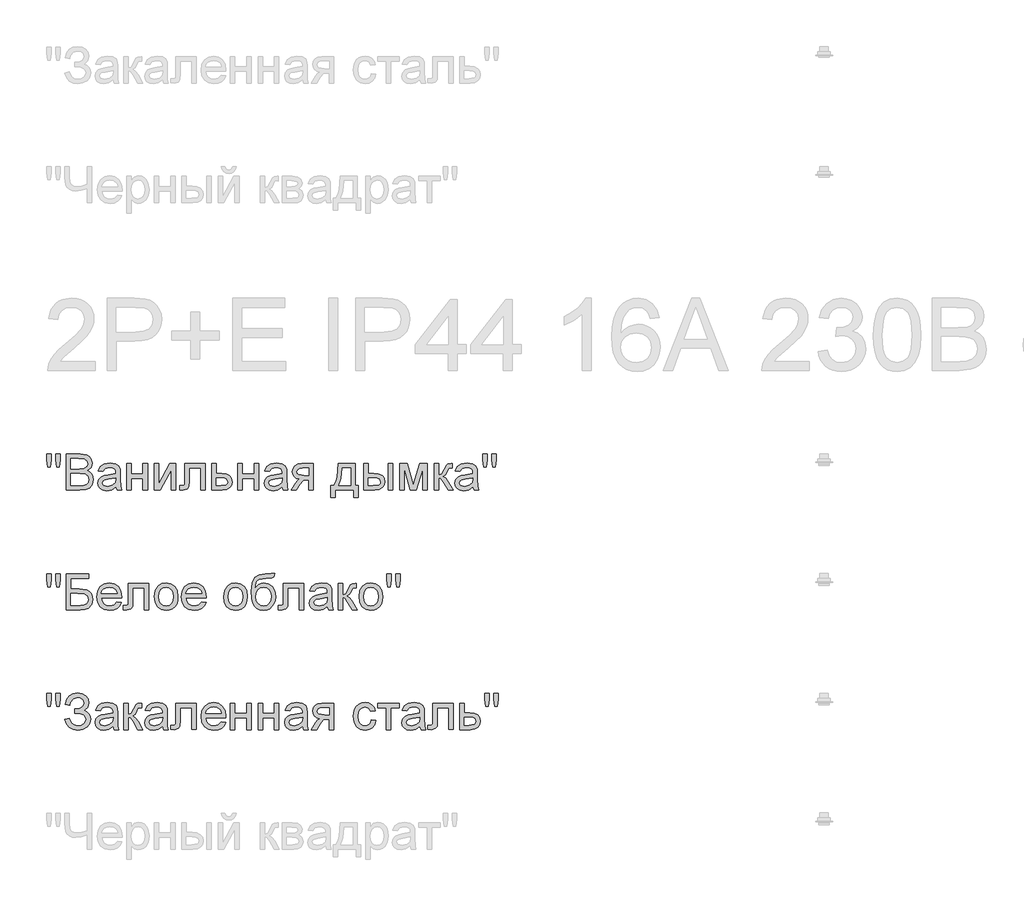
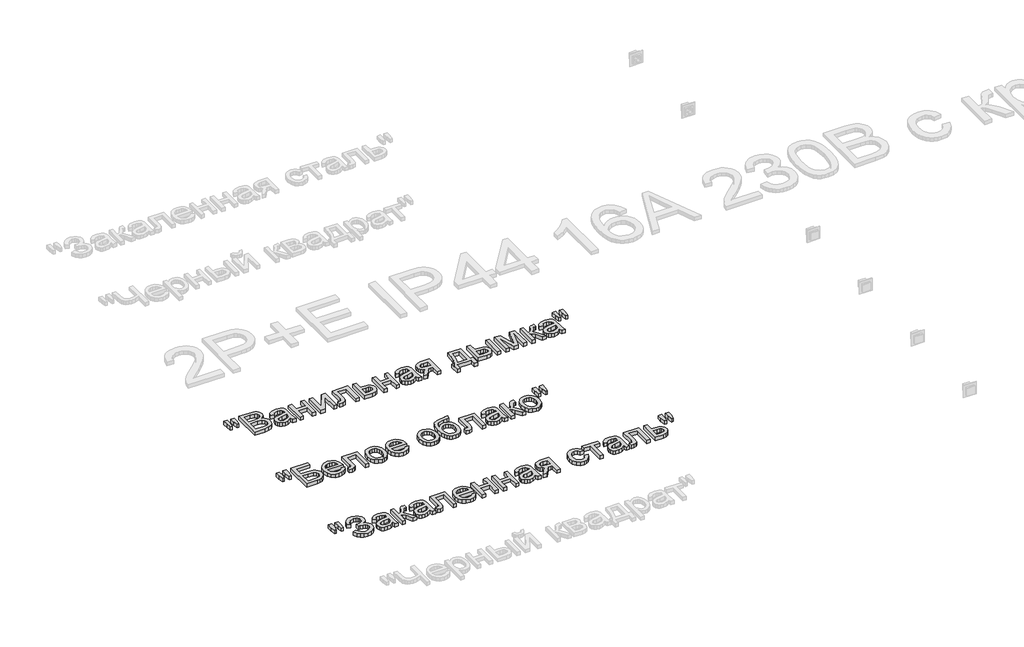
# One storey, part 151 of 168: 3 proxies.
"""IFC4 building model written with IfcOpenShell, lengths in millimetres."""

import ifcopenshell
import ifcopenshell.guid

model = None  # the IFC model being written
_history = None  # IfcOwnerHistory: only IFC2X3 demands one
_inside = {}  # id of a spatial element -> (the spatial element, [elements in it])
_under = {}  # id of a project, library or spatial element -> (it, [spatial elements below it])
_declared = {}  # id of a project -> (the project, [libraries it declares])
_typed = {}  # id of a type object -> (the type object, [elements of that type])
_made_of = {}  # id of a material, layer set ... -> (it, [elements and type objects made of it])


def new_model(schema):
    """Start an empty IFC model of exactly this schema.

    Asked for "IFC4X3", IfcOpenShell would pick the latest addendum, in which some entities
    have other attributes; the version numbers below select the first issue.
    IFC2X3 requires an IfcOwnerHistory on every rooted entity: one is made here for all.
    """
    global model, _history
    if schema == "IFC4X3":
        model = ifcopenshell.file(schema_version=(4, 3, 0, 0))
    else:
        model = ifcopenshell.file(schema=schema)
    _inside.clear()
    _under.clear()
    _declared.clear()
    _typed.clear()
    _made_of.clear()
    _history = None
    if model.schema == "IFC2X3":
        org = make("IfcOrganization", Name="unknown")
        user = make(
            "IfcPersonAndOrganization",
            ThePerson=make("IfcPerson", FamilyName="unknown"),
            TheOrganization=org,
        )
        app = make(
            "IfcApplication",
            ApplicationDeveloper=org,
            Version="unknown",
            ApplicationFullName="unknown",
            ApplicationIdentifier="unknown",
        )
        _history = make(
            "IfcOwnerHistory",
            OwningUser=user,
            OwningApplication=app,
            ChangeAction="ADDED",
            CreationDate=0,
        )
    return model


def make(cls, **values):
    """One entity of the class cls with the attributes given. An attribute that is None is left unset."""
    return model.create_entity(
        cls, **{name: value for name, value in values.items() if value is not None}
    )


def rooted(cls, **values):
    """An entity with a GlobalId (a new one), such as an element, a storey or a relation."""
    return make(cls, GlobalId=ifcopenshell.guid.new(), OwnerHistory=_history, **values)


def si_unit(unit_type, name, prefix=None):
    """IfcSIUnit, for example si_unit("LENGTHUNIT", "METRE", prefix="MILLI")."""
    return make("IfcSIUnit", UnitType=unit_type, Prefix=prefix, Name=name)


def assignment(units):
    """IfcUnitAssignment: the units of a project."""
    return None if units is None else make("IfcUnitAssignment", Units=units)


def point(xyz):
    """IfcCartesianPoint."""
    return None if xyz is None else make("IfcCartesianPoint", Coordinates=xyz)


def direction(xyz):
    """IfcDirection."""
    return None if xyz is None else make("IfcDirection", DirectionRatios=xyz)


def frame(location, z_axis=None, x_axis=None):
    """IfcAxis2Placement3D, a coordinate frame: its origin and axes. An axis left out is left unset."""
    return make(
        "IfcAxis2Placement3D",
        Location=point(location),
        Axis=direction(z_axis),
        RefDirection=direction(x_axis),
    )


def origin():
    """The frame at (0, 0, 0) with its axes left unset."""
    return frame((0.0, 0.0, 0.0))


def origin_with_axes():
    """The frame at (0, 0, 0) with the z axis (0, 0, 1) and the x axis (1, 0, 0) written out."""
    return frame((0.0, 0.0, 0.0), z_axis=(0.0, 0.0, 1.0), x_axis=(1.0, 0.0, 0.0))


def place(relative_to, where):
    """IfcLocalPlacement: puts the frame where relative to a parent placement (None: the world)."""
    return make(
        "IfcLocalPlacement", PlacementRelTo=relative_to, RelativePlacement=where
    )


def context(
    kind, dimensions, precision=None, world=None, true_north=None, identifier=None
):
    """IfcGeometricRepresentationContext, for example the 3D "Model" context."""
    return make(
        "IfcGeometricRepresentationContext",
        ContextIdentifier=identifier,
        ContextType=kind,
        CoordinateSpaceDimension=dimensions,
        Precision=precision,
        WorldCoordinateSystem=world,
        TrueNorth=true_north,
    )


def project(units=None, contexts=None):
    """IfcProject with its units and contexts."""
    return rooted(
        "IfcProject",
        Name="project",
        RepresentationContexts=contexts,
        UnitsInContext=assignment(units),
    )


def spatial(cls, under=None, at=None, **own):
    """A site, building, storey or space (cls), placed at a placement, below another one or the project."""
    s = rooted(cls, ObjectPlacement=at, **own)
    if under is not None:
        _under.setdefault(under.id(), (under, []))[1].append(s)
    return s


def polyline(points):
    """IfcPolyline through the points."""
    return make("IfcPolyline", Points=[point(p) for p in points])


def outline(outer, holes=None, kind="AREA"):
    """IfcArbitraryClosedProfileDef: a profile drawn as a closed curve; with holes, ...WithVoids."""
    if holes is None:
        return make("IfcArbitraryClosedProfileDef", ProfileType=kind, OuterCurve=outer)
    return make(
        "IfcArbitraryProfileDefWithVoids",
        ProfileType=kind,
        OuterCurve=outer,
        InnerCurves=holes,
    )


def extrude(swept, where, along, depth):
    """IfcExtrudedAreaSolid: the profile swept, set in the frame where, extruded along a direction by depth."""
    return make(
        "IfcExtrudedAreaSolid",
        SweptArea=swept,
        Position=where,
        ExtrudedDirection=direction(along),
        Depth=depth,
    )


def shape(context_of_items, identifier, shape_type, items):
    """IfcShapeRepresentation: the items that make up one representation, for example the "Body"."""
    return make(
        "IfcShapeRepresentation",
        ContextOfItems=context_of_items,
        RepresentationIdentifier=identifier,
        RepresentationType=shape_type,
        Items=items,
    )


def made_of(thing, what):
    """Note that an element or type object is made of a material, layer set ...; save() writes the relation."""
    if what is not None:
        _made_of.setdefault(what.id(), (what, []))[1].append(thing)
    return thing


def element(
    cls,
    number,
    at=None,
    inside=None,
    cuts=None,
    type_object=None,
    material=None,
    context=None,
    identifier="Body",
    shape_type=None,
    held_by="IfcProductDefinitionShape",
    body=None,
    shapes=None,
    **own,
):
    """One element of the class cls, such as IfcWall. Its Tag is "e" and its number.

    at: its placement. inside: the storey or other place that contains it. cuts: it is an
    opening in that element (IfcRelVoidsElement). A single representation is given by context,
    identifier, shape_type and body (its items); several are given by shapes. held_by: the class
    of the entity that holds the representations. save() writes the other relations.
    """
    e = rooted(cls, Tag="e%d" % number, ObjectPlacement=at, **own)
    if body is not None:
        shapes = [shape(context, identifier, shape_type, body)]
    if shapes is not None:
        e.Representation = make(held_by, Representations=shapes)
    if inside is not None:
        _inside.setdefault(inside.id(), (inside, []))[1].append(e)
    if cuts is not None:
        rooted(
            "IfcRelVoidsElement", RelatingBuildingElement=cuts, RelatedOpeningElement=e
        )
    if type_object is not None:
        _typed.setdefault(type_object.id(), (type_object, []))[1].append(e)
    return made_of(e, material)


def aggregate(whole, parts):
    """IfcRelAggregates: a whole, such as a stair, and the parts it consists of."""
    return rooted("IfcRelAggregates", RelatingObject=whole, RelatedObjects=parts)


def save(model, path):
    """Write the relations noted so far, then the file.

    IfcRelAggregates (storeys below a building ...), IfcRelContainedInSpatialStructure (elements
    in a storey), IfcRelDefinesByType, IfcRelAssociatesMaterial and IfcRelDeclares: one each for
    every whole, place, type object, material and project.
    """
    for whole, parts in _under.values():
        aggregate(whole, parts)
    for where, things in _inside.values():
        rooted(
            "IfcRelContainedInSpatialStructure",
            RelatedElements=things,
            RelatingStructure=where,
        )
    for kind, things in _typed.values():
        rooted("IfcRelDefinesByType", RelatedObjects=things, RelatingType=kind)
    for what, things in _made_of.values():
        rooted("IfcRelAssociatesMaterial", RelatedObjects=things, RelatingMaterial=what)
    for by, libraries in _declared.values():
        rooted("IfcRelDeclares", RelatingContext=by, RelatedDefinitions=libraries)
    model.write(path)


model = new_model("IFC4")

# Units and contexts
model_context = context("Model", 3, world=origin())
ifc_project = project(units=[si_unit("LENGTHUNIT", "METRE", prefix="MILLI")], contexts=[model_context])

# Site, building, storey
site = spatial("IfcSite", under=ifc_project)
building = spatial("IfcBuilding", under=site)
storey = spatial("IfcBuildingStorey", under=building, Name="Этаж 01", Elevation=0.0)

# Proxies
placement = place(None, origin())
element("IfcBuildingElementProxy", 1, Name="150", ObjectType="150", at=placement, inside=storey, context=model_context, shape_type="SweptSolid", body=[
    extrude(outline(polyline([(63580.1485789, -9651.873446), (63575.550054, -9622.7739802), (63575.550054, -9597.7212163), (63594.3856121, -9597.7212163), (63594.3856121, -9622.7739802), (63590.2653338, -9651.873446), (63580.1485789, -9651.873446)])), origin_with_axes(), (0.0, 0.0, 1.0), 20.0),
    extrude(outline(polyline([(63617.7093306, -9651.873446), (63613.2211703, -9622.7739802), (63613.2211703, -9597.7212163), (63632.0567284, -9597.7212163), (63632.0567284, -9622.7739802), (63627.6421445, -9651.873446), (63617.7093306, -9651.873446)])), origin_with_axes(), (0.0, 0.0, 1.0), 20.0),
    extrude(outline(polyline([(63657.9556209, -9748.4056816), (63657.9556209, -9597.7212163), (63715.4555767, -9597.7212163), (63743.6169435, -9602.1541944), (63753.0807078, -9607.7781904), (63760.2452096, -9615.7842223), (63766.2600803, -9635.0612389), (63761.2017028, -9652.6643923), (63745.9162059, -9666.0001146), (63756.5893823, -9671.5735269), (63764.4758526, -9680.0532069), (63769.3456905, -9690.8781346), (63770.9689698, -9703.48729), (63766.5359918, -9723.7391938), (63755.5547142, -9738.160168), (63739.1655713, -9745.8121135), (63715.0141183, -9748.4056816), (63657.9556209, -9748.4056816)]), holes=[polyline([(63676.791179, -9658.9367803), (63711.1881456, -9658.9367803), (63731.2745025, -9657.3180996), (63743.3594261, -9650.3467358), (63747.4245221, -9638.0778712), (63743.6353376, -9625.7906126), (63732.7828187, -9618.5249432), (63708.5761834, -9616.5567745), (63676.791179, -9616.5567745), (63676.791179, -9658.9367803)]), polyline([(63676.791179, -9729.5701234), (63715.4187885, -9729.5701234), (63729.3983043, -9728.8343594), (63741.2257105, -9724.7324752), (63749.061597, -9716.3631598), (63752.1334117, -9703.671231), (63748.5281681, -9689.0295275), (63736.8479148, -9680.2923302), (63713.5793786, -9677.7723385), (63676.791179, -9677.7723385), (63676.791179, -9729.5701234)])]), origin_with_axes(), (0.0, 0.0, 1.0), 20.0),
    extrude(outline(polyline([(63865.1467606, -9734.279013), (63846.8814195, -9747.0445182), (63826.7030921, -9750.7601263), (63810.9623412, -9748.5252432), (63799.3510657, -9741.8205939), (63792.1911624, -9731.6394596), (63789.804528, -9718.975122), (63793.4097715, -9704.0759012), (63802.8827329, -9693.2601705), (63816.0713024, -9687.079753), (63832.3684748, -9684.2470616), (63865.036396, -9677.7723385), (63865.1467606, -9673.5784838), (63863.8499765, -9665.1723802), (63859.9596244, -9659.6725443), (63851.2592153, -9655.5890542), (63839.1375035, -9654.2278908), (63820.0812162, -9657.8515285), (63810.9945309, -9670.7090042), (63792.1589727, -9668.3545594), (63800.3075589, -9649.9604597), (63816.7150959, -9639.1815172), (63841.5655247, -9635.3923327), (63864.3926025, -9638.7400588), (63877.2868664, -9647.1461624), (63883.0626137, -9659.9300617), (63883.9823187, -9676.4111751), (63883.9823187, -9699.8452582), (63884.9388119, -9732.5683617), (63888.6912083, -9748.4056816), (63869.8556501, -9748.4056816), (63865.1467606, -9734.279013)]), holes=[polyline([(63865.1467606, -9696.6078966), (63834.7597078, -9702.383644), (63818.5545059, -9705.4370645), (63811.2152601, -9710.4034715), (63808.6400861, -9717.6507468), (63814.2502865, -9727.841078), (63830.7130058, -9731.9245682), (63849.7692932, -9727.4180137), (63862.0565518, -9716.5103126), (63865.036396, -9701.9421856), (63865.1467606, -9696.6078966)])]), origin_with_axes(), (0.0, 0.0, 1.0), 20.0),
    extrude(outline(polyline([(63909.8812112, -9637.7467774), (63928.7167693, -9637.7467774), (63928.7167693, -9680.1267833), (63978.1601095, -9680.1267833), (63978.1601095, -9637.7467774), (63996.9956676, -9637.7467774), (63996.9956676, -9748.4056816), (63978.1601095, -9748.4056816), (63978.1601095, -9698.9623414), (63928.7167693, -9698.9623414), (63928.7167693, -9748.4056816), (63909.8812112, -9748.4056816), (63909.8812112, -9637.7467774)])), origin_with_axes(), (0.0, 0.0, 1.0), 20.0),
    extrude(outline(polyline([(64025.2490049, -9637.7467774), (64044.084563, -9637.7467774), (64044.084563, -9722.1389071), (64090.364118, -9637.7467774), (64114.7179061, -9637.7467774), (64114.7179061, -9748.4056816), (64095.8823479, -9748.4056816), (64095.8823479, -9664.5285867), (64049.8970985, -9748.4056816), (64025.2490049, -9748.4056816), (64025.2490049, -9637.7467774)])), origin_with_axes(), (0.0, 0.0, 1.0), 20.0),
    extrude(outline(polyline([(64152.3890224, -9637.7467774), (64237.1490341, -9637.7467774), (64237.1490341, -9748.295317), (64218.3134759, -9748.295317), (64218.3134759, -9656.5823356), (64171.2245806, -9656.5823356), (64171.2245806, -9709.3734019), (64169.9553877, -9733.72719), (64162.9840239, -9744.0094917), (64146.5029105, -9748.4056816), (64131.1990195, -9747.4491884), (64131.1990195, -9729.5701234), (64139.6235172, -9729.5701234), (64148.1399854, -9728.4112951), (64151.5428938, -9724.7324752), (64152.3890224, -9708.3065441), (64152.3890224, -9637.7467774)])), origin_with_axes(), (0.0, 0.0, 1.0), 20.0),
    extrude(outline(polyline([(64265.4023713, -9637.7467774), (64284.2379295, -9637.7467774), (64284.2379295, -9677.7723385), (64305.9429672, -9677.7723385), (64324.7601312, -9680.1313818), (64338.6844648, -9687.2085117), (64347.2929034, -9698.433511), (64350.162383, -9713.2361628), (64347.7205663, -9726.7144394), (64340.395116, -9738.0865916), (64327.6985887, -9745.8259091), (64309.1435405, -9748.4056816), (64265.4023713, -9748.4056816), (64265.4023713, -9637.7467774)]), holes=[polyline([(64284.2379295, -9729.5701234), (64301.8226888, -9729.5701234), (64324.539402, -9725.615392), (64329.6299692, -9720.552416), (64331.3268249, -9713.272951), (64326.3052356, -9701.6846682), (64318.2348244, -9697.8770895), (64304.066769, -9696.6078966), (64284.2379295, -9696.6078966), (64284.2379295, -9729.5701234)])]), origin_with_axes(), (0.0, 0.0, 1.0), 20.0),
    extrude(outline(polyline([(64373.7068307, -9637.7467774), (64392.5423889, -9637.7467774), (64392.5423889, -9680.1267833), (64441.985729, -9680.1267833), (64441.985729, -9637.7467774), (64460.8212872, -9637.7467774), (64460.8212872, -9748.4056816), (64441.985729, -9748.4056816), (64441.985729, -9698.9623414), (64392.5423889, -9698.9623414), (64392.5423889, -9748.4056816), (64373.7068307, -9748.4056816), (64373.7068307, -9637.7467774)])), origin_with_axes(), (0.0, 0.0, 1.0), 20.0),
    extrude(outline(polyline([(64559.7079675, -9734.279013), (64541.4426264, -9747.0445182), (64521.264299, -9750.7601263), (64505.5235481, -9748.5252432), (64493.9122726, -9741.8205939), (64486.7523693, -9731.6394596), (64484.3657349, -9718.975122), (64487.9709784, -9704.0759012), (64497.4439398, -9693.2601705), (64510.6325093, -9687.079753), (64526.9296817, -9684.2470616), (64559.5976029, -9677.7723385), (64559.7079675, -9673.5784838), (64558.4111834, -9665.1723802), (64554.5208313, -9659.6725443), (64545.8204221, -9655.5890542), (64533.6987104, -9654.2278908), (64514.6424231, -9657.8515285), (64505.5557378, -9670.7090042), (64486.7201796, -9668.3545594), (64494.8687658, -9649.9604597), (64511.2763028, -9639.1815172), (64536.1267316, -9635.3923327), (64558.9538094, -9638.7400588), (64571.8480733, -9647.1461624), (64577.6238206, -9659.9300617), (64578.5435256, -9676.4111751), (64578.5435256, -9699.8452582), (64579.5000188, -9732.5683617), (64583.2524152, -9748.4056816), (64564.416857, -9748.4056816), (64559.7079675, -9734.279013)]), holes=[polyline([(64559.7079675, -9696.6078966), (64529.3209147, -9702.383644), (64513.1157128, -9705.4370645), (64505.776467, -9710.4034715), (64503.201293, -9717.6507468), (64508.8114934, -9727.841078), (64525.2742127, -9731.9245682), (64544.3305001, -9727.4180137), (64556.6177587, -9716.5103126), (64559.5976029, -9701.9421856), (64559.7079675, -9696.6078966)])]), origin_with_axes(), (0.0, 0.0, 1.0), 20.0),
    extrude(outline(polyline([(64689.2024298, -9637.7467774), (64689.2024298, -9748.4056816), (64670.3668716, -9748.4056816), (64670.3668716, -9706.0256757), (64660.1029639, -9706.0256757), (64646.1234481, -9708.4169087), (64632.9900609, -9724.4933519), (64617.9804755, -9748.4056816), (64596.2018614, -9748.4056816), (64615.1109959, -9718.1657816), (64623.4619172, -9707.3132627), (64631.1506509, -9702.4940086), (64618.2747811, -9698.5484742), (64609.224884, -9691.0528785), (64603.872201, -9681.0832765), (64602.0879733, -9669.7157228), (64604.5251915, -9656.8214589), (64611.8368462, -9646.6127335), (64623.7654199, -9639.9632664), (64640.0533952, -9637.7467774), (64689.2024298, -9637.7467774)]), holes=[polyline([(64670.3668716, -9656.5823356), (64645.5348369, -9656.5823356), (64632.7095509, -9657.672186), (64625.4300859, -9660.9417372), (64620.9235315, -9671.1504626), (64622.583599, -9678.32876), (64627.5638015, -9683.3089625), (64651.0898551, -9687.1901176), (64670.3668716, -9687.1901176), (64670.3668716, -9656.5823356)])]), origin_with_axes(), (0.0, 0.0, 1.0), 20.0),
    extrude(outline(polyline([(64792.7979996, -9637.7467774), (64863.4313427, -9637.7467774), (64863.4313427, -9729.5701234), (64877.5580113, -9729.5701234), (64877.5580113, -9779.0134636), (64858.7224531, -9779.0134636), (64858.7224531, -9748.4056816), (64781.0257758, -9748.4056816), (64781.0257758, -9779.0134636), (64762.1902176, -9779.0134636), (64762.1902176, -9729.5701234), (64773.9624415, -9729.5701234), (64782.5202964, -9714.105284), (64788.5121744, -9693.6464466), (64792.7979996, -9637.7467774)]), holes=[polyline([(64809.279113, -9656.5823356), (64804.864529, -9699.4957703), (64795.1524444, -9729.5701234), (64844.5957845, -9729.5701234), (64844.5957845, -9656.5823356), (64809.279113, -9656.5823356)])]), origin_with_axes(), (0.0, 0.0, 1.0), 20.0),
    extrude(outline(polyline([(65002.3435841, -9637.7467774), (65021.1791422, -9637.7467774), (65021.1791422, -9748.4056816), (65002.3435841, -9748.4056816), (65002.3435841, -9637.7467774)])), origin_with_axes(), (0.0, 0.0, 1.0), 20.0),
    extrude(outline(polyline([(64898.7480142, -9637.7467774), (64917.5835724, -9637.7467774), (64917.5835724, -9677.7723385), (64940.8705027, -9677.7723385), (64960.9982463, -9680.1313818), (64975.9112627, -9687.2085117), (64985.1405023, -9698.433511), (64988.2169154, -9713.2361628), (64985.637143, -9726.7144394), (64977.8978255, -9738.0865916), (64964.4931253, -9745.8259091), (64944.9172046, -9748.4056816), (64898.7480142, -9748.4056816), (64898.7480142, -9637.7467774)]), holes=[polyline([(64917.5835724, -9729.5701234), (64936.9341653, -9729.5701234), (64961.9133528, -9725.615392), (64967.5143562, -9720.552416), (64969.3813573, -9713.272951), (64963.8447333, -9701.6846682), (64954.9649816, -9697.8770895), (64939.3989747, -9696.6078966), (64917.5835724, -9696.6078966), (64917.5835724, -9729.5701234)])]), origin_with_axes(), (0.0, 0.0, 1.0), 20.0),
    extrude(outline(polyline([(65049.4324794, -9637.7467774), (65081.8428832, -9637.7467774), (65106.8220707, -9726.3327619), (65133.7510327, -9637.7467774), (65164.8002731, -9637.7467774), (65164.8002731, -9748.4056816), (65145.964715, -9748.4056816), (65145.964715, -9659.3046623), (65118.8886001, -9748.4056816), (65094.1669301, -9748.4056816), (65068.2680376, -9655.0372312), (65068.2680376, -9748.4056816), (65049.4324794, -9748.4056816), (65049.4324794, -9637.7467774)])), origin_with_axes(), (0.0, 0.0, 1.0), 20.0),
    extrude(outline(polyline([(65193.0536104, -9637.7467774), (65211.8891685, -9637.7467774), (65211.8891685, -9684.8356728), (65224.5075209, -9681.4511584), (65234.845005, -9661.7326835), (65243.4350496, -9644.7181412), (65251.0134187, -9639.1815172), (65264.7905994, -9637.7467774), (65268.395843, -9637.7467774), (65268.395843, -9656.6927002), (65263.3190714, -9656.5823356), (65254.1220216, -9658.5688983), (65247.6472984, -9670.9665216), (65240.0505352, -9684.3758203), (65229.4003515, -9690.9425139), (65241.2829399, -9698.2725627), (65252.9447992, -9713.7144094), (65273.1047325, -9748.4056816), (65251.6940004, -9748.4056816), (65231.9387373, -9714.4501734), (65222.0059234, -9700.0843815), (65211.8891685, -9696.6078966), (65211.8891685, -9748.4056816), (65193.0536104, -9748.4056816), (65193.0536104, -9637.7467774)])), origin_with_axes(), (0.0, 0.0, 1.0), 20.0),
    extrude(outline(polyline([(65355.5102994, -9734.279013), (65337.2449584, -9747.0445182), (65317.0666309, -9750.7601263), (65301.3258801, -9748.5252432), (65289.7146046, -9741.8205939), (65282.5547013, -9731.6394596), (65280.1680668, -9718.975122), (65283.7733104, -9704.0759012), (65293.2462717, -9693.2601705), (65306.4348413, -9687.079753), (65322.7320137, -9684.2470616), (65355.3999348, -9677.7723385), (65355.5102994, -9673.5784838), (65354.2135154, -9665.1723802), (65350.3231633, -9659.6725443), (65341.6227541, -9655.5890542), (65329.5010424, -9654.2278908), (65310.444755, -9657.8515285), (65301.3580697, -9670.7090042), (65282.5225116, -9668.3545594), (65290.6710978, -9649.9604597), (65307.0786348, -9639.1815172), (65331.9290635, -9635.3923327), (65354.7561413, -9638.7400588), (65367.6504053, -9647.1461624), (65373.4261526, -9659.9300617), (65374.3458576, -9676.4111751), (65374.3458576, -9699.8452582), (65375.3023508, -9732.5683617), (65379.0547471, -9748.4056816), (65360.219189, -9748.4056816), (65355.5102994, -9734.279013)]), holes=[polyline([(65355.5102994, -9696.6078966), (65325.1232466, -9702.383644), (65308.9180447, -9705.4370645), (65301.5787989, -9710.4034715), (65299.003625, -9717.6507468), (65304.6138254, -9727.841078), (65321.0765447, -9731.9245682), (65340.132832, -9727.4180137), (65352.4200907, -9716.5103126), (65355.3999348, -9701.9421856), (65355.5102994, -9696.6078966)])]), origin_with_axes(), (0.0, 0.0, 1.0), 20.0),
    extrude(outline(polyline([(65400.1343854, -9651.873446), (65395.5358605, -9622.7739802), (65395.5358605, -9597.7212163), (65414.3714187, -9597.7212163), (65414.3714187, -9622.7739802), (65410.2511403, -9651.873446), (65400.1343854, -9651.873446)])), origin_with_axes(), (0.0, 0.0, 1.0), 20.0),
    extrude(outline(polyline([(65437.6951372, -9651.873446), (65433.2069768, -9622.7739802), (65433.2069768, -9597.7212163), (65452.042535, -9597.7212163), (65452.042535, -9622.7739802), (65447.627951, -9651.873446), (65437.6951372, -9651.873446)])), origin_with_axes(), (0.0, 0.0, 1.0), 20.0),
])
element("IfcBuildingElementProxy", 2, Name="150", ObjectType="150", at=placement, inside=storey, context=model_context, shape_type="SweptSolid", body=[
    extrude(outline(polyline([(63580.1485789, -10151.873446), (63575.550054, -10122.7739802), (63575.550054, -10097.7212163), (63594.3856121, -10097.7212163), (63594.3856121, -10122.7739802), (63590.2653338, -10151.873446), (63580.1485789, -10151.873446)])), origin_with_axes(), (0.0, 0.0, 1.0), 20.0),
    extrude(outline(polyline([(63617.7093306, -10151.873446), (63613.2211703, -10122.7739802), (63613.2211703, -10097.7212163), (63632.0567284, -10097.7212163), (63632.0567284, -10122.7739802), (63627.6421445, -10151.873446), (63617.7093306, -10151.873446)])), origin_with_axes(), (0.0, 0.0, 1.0), 20.0),
    extrude(outline(polyline([(63657.9556209, -10097.7212163), (63752.1334117, -10097.7212163), (63752.1334117, -10116.5567745), (63676.791179, -10116.5567745), (63676.791179, -10161.2912251), (63712.0710624, -10161.2912251), (63743.157091, -10165.1171979), (63753.5589544, -10170.6446248), (63761.6615553, -10179.5749603), (63766.8762826, -10191.0712726), (63768.614525, -10204.2966303), (63763.6665122, -10225.7625448), (63748.8960501, -10242.0781113), (63735.6247071, -10246.823789), (63715.4555767, -10248.4056816), (63657.9556209, -10248.4056816), (63657.9556209, -10097.7212163)]), holes=[polyline([(63676.791179, -10229.5701234), (63717.1478339, -10229.5701234), (63731.4124583, -10228.015822), (63741.6119866, -10223.3529177), (63747.7372218, -10215.5814105), (63749.7789669, -10204.7013005), (63745.1068655, -10189.9492325), (63732.102237, -10182.0765578), (63703.7201411, -10180.1267833), (63676.791179, -10180.1267833), (63676.791179, -10229.5701234)])]), origin_with_axes(), (0.0, 0.0, 1.0), 20.0),
    extrude(outline(polyline([(63869.6349209, -10215.4434548), (63888.1025971, -10217.7978996), (63881.4485315, -10231.713036), (63870.8305374, -10242.1148995), (63856.4877381, -10248.5988196), (63838.6592569, -10250.7601263), (63816.5587461, -10247.0307226), (63799.5534008, -10235.8425114), (63788.710079, -10217.9220597), (63785.0956384, -10193.9959345), (63788.7468672, -10169.2650674), (63799.7005536, -10150.7698), (63816.4759726, -10139.2366995), (63837.5923991, -10135.3923327), (63858.0512366, -10139.2275025), (63874.3989927, -10150.7330118), (63885.1181544, -10169.191491), (63888.6912083, -10193.8855699), (63888.5808437, -10198.9623414), (63803.9311966, -10198.9623414), (63807.1915508, -10213.0614189), (63814.7653213, -10223.4264941), (63825.6960151, -10229.8000497), (63839.0271389, -10231.9245682), (63857.4948151, -10227.9882308), (63869.6349209, -10215.4434548)]), holes=[polyline([(63803.9311966, -10180.1267833), (63869.8556501, -10180.1267833), (63867.3080673, -10170.1755753), (63862.3140692, -10163.0570587), (63851.3327917, -10156.4351828), (63837.5188227, -10154.2278908), (63824.8222954, -10155.9891259), (63814.3238629, -10161.272831), (63807.0260039, -10169.5087892), (63803.9311966, -10180.1267833)])]), origin_with_axes(), (0.0, 0.0, 1.0), 20.0),
    extrude(outline(polyline([(63916.9445455, -10137.7467774), (64001.7045572, -10137.7467774), (64001.7045572, -10248.295317), (63982.868999, -10248.295317), (63982.868999, -10156.5823356), (63935.7801036, -10156.5823356), (63935.7801036, -10209.3734019), (63934.5109108, -10233.72719), (63927.539547, -10244.0094917), (63911.0584336, -10248.4056816), (63895.7545426, -10247.4491884), (63895.7545426, -10229.5701234), (63904.1790403, -10229.5701234), (63912.6955084, -10228.4112951), (63916.0984169, -10224.7324752), (63916.9445455, -10208.3065441), (63916.9445455, -10137.7467774)])), origin_with_axes(), (0.0, 0.0, 1.0), 20.0),
    extrude(outline(polyline([(64025.2490049, -10193.0762295), (64029.323298, -10166.3955878), (64041.5461773, -10147.6428031), (64056.6477332, -10138.4549503), (64074.7291332, -10135.3923327), (64094.516586, -10139.1217364), (64110.3217163, -10150.3099476), (64120.6821929, -10168.0740494), (64124.1356852, -10191.5311251), (64122.6089749, -10210.5598213), (64118.0288441, -10225.0451749), (64110.5286499, -10235.8930952), (64100.2417496, -10244.0094917), (64088.0234688, -10249.0724677), (64074.7291332, -10250.7601263), (64054.7025571, -10247.0445182), (64038.915821, -10235.8976937), (64028.6657089, -10217.7611114), (64025.2490049, -10193.0762295)]), holes=[polyline([(64044.084563, -10193.0394413), (64046.2642638, -10210.0861732), (64052.8033663, -10222.2308776), (64062.6442097, -10229.5011455), (64074.7291332, -10231.9245682), (64086.7588745, -10229.48735), (64096.5813237, -10222.1756953), (64103.1204262, -10209.8700426), (64105.300127, -10192.4508301), (64103.1066306, -10175.9007388), (64096.5261414, -10163.9215814), (64086.6898966, -10156.6513134), (64074.7291332, -10154.2278908), (64062.6442097, -10156.6421164), (64052.8033663, -10163.8847932), (64046.2642638, -10176.0019064), (64044.084563, -10193.0394413)])]), origin_with_axes(), (0.0, 0.0, 1.0), 20.0),
    extrude(outline(polyline([(64222.8016363, -10215.4434548), (64241.2693124, -10217.7978996), (64234.6152469, -10231.713036), (64223.9972528, -10242.1148995), (64209.6544535, -10248.5988196), (64191.8259723, -10250.7601263), (64169.7254614, -10247.0307226), (64152.7201162, -10235.8425114), (64141.8767944, -10217.9220597), (64138.2623538, -10193.9959345), (64141.9135826, -10169.2650674), (64152.867269, -10150.7698), (64169.642688, -10139.2366995), (64190.7591145, -10135.3923327), (64211.217952, -10139.2275025), (64227.5657081, -10150.7330118), (64238.2848698, -10169.191491), (64241.8579236, -10193.8855699), (64241.747559, -10198.9623414), (64157.0979119, -10198.9623414), (64160.3582661, -10213.0614189), (64167.9320367, -10223.4264941), (64178.8627305, -10229.8000497), (64192.1938543, -10231.9245682), (64210.6615304, -10227.9882308), (64222.8016363, -10215.4434548)]), holes=[polyline([(64157.0979119, -10180.1267833), (64223.0223655, -10180.1267833), (64220.4747827, -10170.1755753), (64215.4807846, -10163.0570587), (64204.499507, -10156.4351828), (64190.6855381, -10154.2278908), (64177.9890107, -10155.9891259), (64167.4905783, -10161.272831), (64160.1927192, -10169.5087892), (64157.0979119, -10180.1267833)])]), origin_with_axes(), (0.0, 0.0, 1.0), 20.0),
    extrude(outline(polyline([(64314.8457115, -10193.0762295), (64318.9200046, -10166.3955878), (64331.1428839, -10147.6428031), (64346.2444398, -10138.4549503), (64364.3258398, -10135.3923327), (64384.1132926, -10139.1217364), (64399.9184229, -10150.3099476), (64410.2788995, -10168.0740494), (64413.7323918, -10191.5311251), (64412.2056815, -10210.5598213), (64407.6255507, -10225.0451749), (64400.1253565, -10235.8930952), (64389.8384562, -10244.0094917), (64377.6201754, -10249.0724677), (64364.3258398, -10250.7601263), (64344.2992637, -10247.0445182), (64328.5125276, -10235.8976937), (64318.2624155, -10217.7611114), (64314.8457115, -10193.0762295)]), holes=[polyline([(64333.6812696, -10193.0394413), (64335.8609704, -10210.0861732), (64342.4000729, -10222.2308776), (64352.2409163, -10229.5011455), (64364.3258398, -10231.9245682), (64376.3555811, -10229.48735), (64386.1780303, -10222.1756953), (64392.7171328, -10209.8700426), (64394.8968336, -10192.4508301), (64392.7033372, -10175.9007388), (64386.122848, -10163.9215814), (64376.2866032, -10156.6513134), (64364.3258398, -10154.2278908), (64352.2409163, -10156.6421164), (64342.4000729, -10163.8847932), (64335.8609704, -10176.0019064), (64333.6812696, -10193.0394413)])]), origin_with_axes(), (0.0, 0.0, 1.0), 20.0),
    extrude(outline(polyline([(64512.6190721, -10095.3667716), (64529.1001855, -10095.3667716), (64524.2441431, -10110.0636573), (64514.6424231, -10115.3795521), (64491.576222, -10116.5567745), (64460.5085875, -10120.897782), (64453.3808738, -10126.5447707), (64448.5892108, -10134.8037215), (64444.560903, -10159.4150269), (64460.8764695, -10141.3888092), (64470.7954878, -10136.8914518), (64481.9009255, -10135.3923327), (64501.4998388, -10139.2045098), (64517.401538, -10150.6410414), (64527.9413572, -10168.5798871), (64531.4546302, -10191.8990071), (64529.7117893, -10209.8792396), (64524.4832664, -10224.3094109), (64507.9469707, -10243.8623389), (64496.6529935, -10249.0356795), (64481.9009255, -10250.7601263), (64464.9001788, -10248.5390388), (64452.1576662, -10241.8757762), (64442.7812738, -10231.7498242), (64435.8788879, -10219.1406689), (64431.6298508, -10200.1533594), (64430.2135052, -10170.8929452), (64433.786559, -10134.7531377), (64444.5057207, -10112.7124076), (64462.6377045, -10101.4690142), (64488.449225, -10097.7212163), (64509.4184987, -10097.2981521), (64512.6190721, -10095.3667716)]), holes=[polyline([(64512.6190721, -10191.3103959), (64510.577327, -10176.48935), (64504.4520918, -10164.6205572), (64494.6112484, -10156.8260574), (64481.4226789, -10154.2278908), (64467.6730893, -10156.9732102), (64457.473561, -10165.2091684), (64451.1551877, -10178.0344544), (64449.0490633, -10194.5477575), (64451.3759169, -10210.5552228), (64458.3564778, -10222.304454), (64468.7491442, -10229.5195396), (64481.3123143, -10231.9245682), (64493.9398638, -10229.1424606), (64503.937057, -10220.7961378), (64510.4485683, -10207.8604872), (64512.6190721, -10191.3103959)])]), origin_with_axes(), (0.0, 0.0, 1.0), 20.0),
    extrude(outline(polyline([(64564.416857, -10137.7467774), (64649.1768687, -10137.7467774), (64649.1768687, -10248.295317), (64630.3413105, -10248.295317), (64630.3413105, -10156.5823356), (64583.2524152, -10156.5823356), (64583.2524152, -10209.3734019), (64581.9832223, -10233.72719), (64575.0118585, -10244.0094917), (64558.5307451, -10248.4056816), (64543.2268541, -10247.4491884), (64543.2268541, -10229.5701234), (64551.6513518, -10229.5701234), (64560.16782, -10228.4112951), (64563.5707284, -10224.7324752), (64564.416857, -10208.3065441), (64564.416857, -10137.7467774)])), origin_with_axes(), (0.0, 0.0, 1.0), 20.0),
    extrude(outline(polyline([(64748.063549, -10234.279013), (64729.7982079, -10247.0445182), (64709.6198805, -10250.7601263), (64693.8791296, -10248.5252432), (64682.2678542, -10241.8205939), (64675.1079508, -10231.6394596), (64672.7213164, -10218.975122), (64676.3265599, -10204.0759012), (64685.7995213, -10193.2601705), (64698.9880908, -10187.079753), (64715.2852632, -10184.2470616), (64747.9531844, -10177.7723385), (64748.063549, -10173.5784838), (64746.766765, -10165.1723802), (64742.8764129, -10159.6725443), (64734.1760037, -10155.5890542), (64722.0542919, -10154.2278908), (64702.9980046, -10157.8515285), (64693.9113193, -10170.7090042), (64675.0757612, -10168.3545594), (64683.2243473, -10149.9604597), (64699.6318843, -10139.1815172), (64724.4823131, -10135.3923327), (64747.3093909, -10138.7400588), (64760.2036548, -10147.1461624), (64765.9794022, -10159.9300617), (64766.8991071, -10176.4111751), (64766.8991071, -10199.8452582), (64767.8556003, -10232.5683617), (64771.6079967, -10248.4056816), (64752.7724385, -10248.4056816), (64748.063549, -10234.279013)]), holes=[polyline([(64748.063549, -10196.6078966), (64717.6764962, -10202.383644), (64701.4712943, -10205.4370645), (64694.1320485, -10210.4034715), (64691.5568745, -10217.6507468), (64697.167075, -10227.841078), (64713.6297942, -10231.9245682), (64732.6860816, -10227.4180137), (64744.9733402, -10216.5103126), (64747.9531844, -10201.9421856), (64748.063549, -10196.6078966)])]), origin_with_axes(), (0.0, 0.0, 1.0), 20.0),
    extrude(outline(polyline([(64792.7979996, -10137.7467774), (64811.6335578, -10137.7467774), (64811.6335578, -10184.8356728), (64824.2519102, -10181.4511584), (64834.5893943, -10161.7326835), (64843.1794388, -10144.7181412), (64850.7578079, -10139.1815172), (64864.5349887, -10137.7467774), (64868.1402322, -10137.7467774), (64868.1402322, -10156.6927002), (64863.0634607, -10156.5823356), (64853.8664108, -10158.5688983), (64847.3916877, -10170.9665216), (64839.7949245, -10184.3758203), (64829.1447407, -10190.9425139), (64841.0273292, -10198.2725627), (64852.6891884, -10213.7144094), (64872.8491218, -10248.4056816), (64851.4383896, -10248.4056816), (64831.6831265, -10214.4501734), (64821.7503126, -10200.0843815), (64811.6335578, -10196.6078966), (64811.6335578, -10248.4056816), (64792.7979996, -10248.4056816), (64792.7979996, -10137.7467774)])), origin_with_axes(), (0.0, 0.0, 1.0), 20.0),
    extrude(outline(polyline([(64879.9124561, -10193.0762295), (64883.9867492, -10166.3955878), (64896.2096285, -10147.6428031), (64911.3111844, -10138.4549503), (64929.3925844, -10135.3923327), (64949.1800372, -10139.1217364), (64964.9851674, -10150.3099476), (64975.3456441, -10168.0740494), (64978.7991364, -10191.5311251), (64977.2724261, -10210.5598213), (64972.6922952, -10225.0451749), (64965.1921011, -10235.8930952), (64954.9052008, -10244.0094917), (64942.68692, -10249.0724677), (64929.3925844, -10250.7601263), (64909.3660083, -10247.0445182), (64893.5792722, -10235.8976937), (64883.3291601, -10217.7611114), (64879.9124561, -10193.0762295)]), holes=[polyline([(64898.7480142, -10193.0394413), (64900.927715, -10210.0861732), (64907.4668175, -10222.2308776), (64917.3076609, -10229.5011455), (64929.3925844, -10231.9245682), (64941.4223257, -10229.48735), (64951.2447749, -10222.1756953), (64957.7838774, -10209.8700426), (64959.9635782, -10192.4508301), (64957.7700818, -10175.9007388), (64951.1895926, -10163.9215814), (64941.3533478, -10156.6513134), (64929.3925844, -10154.2278908), (64917.3076609, -10156.6421164), (64907.4668175, -10163.8847932), (64900.927715, -10176.0019064), (64898.7480142, -10193.0394413)])]), origin_with_axes(), (0.0, 0.0, 1.0), 20.0),
    extrude(outline(polyline([(64999.8787747, -10151.873446), (64995.2802498, -10122.7739802), (64995.2802498, -10097.7212163), (65014.1158079, -10097.7212163), (65014.1158079, -10122.7739802), (65009.9955296, -10151.873446), (64999.8787747, -10151.873446)])), origin_with_axes(), (0.0, 0.0, 1.0), 20.0),
    extrude(outline(polyline([(65037.4395264, -10151.873446), (65032.9513661, -10122.7739802), (65032.9513661, -10097.7212163), (65051.7869242, -10097.7212163), (65051.7869242, -10122.7739802), (65047.3723403, -10151.873446), (65037.4395264, -10151.873446)])), origin_with_axes(), (0.0, 0.0, 1.0), 20.0),
])
element("IfcBuildingElementProxy", 3, Name="150", ObjectType="150", at=placement, inside=storey, context=model_context, shape_type="SweptSolid", body=[
    extrude(outline(polyline([(63580.1485789, -10651.873446), (63575.550054, -10622.7739802), (63575.550054, -10597.7212163), (63594.3856121, -10597.7212163), (63594.3856121, -10622.7739802), (63590.2653338, -10651.873446), (63580.1485789, -10651.873446)])), origin_with_axes(), (0.0, 0.0, 1.0), 20.0),
    extrude(outline(polyline([(63617.7093306, -10651.873446), (63613.2211703, -10622.7739802), (63613.2211703, -10597.7212163), (63632.0567284, -10597.7212163), (63632.0567284, -10622.7739802), (63627.6421445, -10651.873446), (63617.7093306, -10651.873446)])), origin_with_axes(), (0.0, 0.0, 1.0), 20.0),
    extrude(outline(polyline([(63650.8922866, -10706.0256757), (63669.7278447, -10701.3167862), (63681.2977335, -10721.7158428), (63692.2284273, -10729.3723868), (63706.2217387, -10731.9245682), (63720.398991, -10730.0069833), (63731.2193202, -10724.2542286), (63738.0757209, -10715.7883442), (63740.3611878, -10705.7313701), (63737.8641888, -10695.1961495), (63730.3731916, -10687.0613589), (63718.5779752, -10681.8604272), (63703.1683181, -10680.1267833), (63693.2722924, -10680.1267833), (63693.2722924, -10661.2912251), (63714.591054, -10659.7645148), (63727.6324708, -10651.9654165), (63733.2978535, -10637.7099892), (63731.4124583, -10628.8394346), (63725.7562726, -10621.2104817), (63716.8811195, -10615.9543677), (63705.3388219, -10614.2023297), (63686.1169876, -10619.591801), (63675.117316, -10633.8840165), (63672.0822895, -10647.1645565), (63653.2467313, -10642.455667), (63659.0983543, -10621.8542752), (63669.7002536, -10607.1389954), (63685.0524291, -10598.3098275), (63705.1548809, -10595.3667716), (63724.5468605, -10598.4247907), (63739.4598769, -10607.5988479), (63748.965028, -10620.8655924), (63752.1334117, -10636.201673), (63747.2037929, -10654.8440931), (63732.4149367, -10668.7592296), (63742.8903765, -10673.5830823), (63751.5080123, -10681.7270699), (63757.2745625, -10692.4922168), (63759.196746, -10705.1795471), (63755.508729, -10723.0172254), (63744.444678, -10737.6819214), (63727.2921799, -10747.4905751), (63705.3388219, -10750.7601263), (63686.2365493, -10747.9642232), (63670.7947025, -10739.5765137), (63659.0132816, -10725.5969979), (63650.8922866, -10706.0256757)])), origin_with_axes(), (0.0, 0.0, 1.0), 20.0),
    extrude(outline(polyline([(63853.3745367, -10734.279013), (63835.1091957, -10747.0445182), (63814.9308682, -10750.7601263), (63799.1901174, -10748.5252432), (63787.5788419, -10741.8205939), (63780.4189386, -10731.6394596), (63778.0323041, -10718.975122), (63781.6375477, -10704.0759012), (63791.110509, -10693.2601705), (63804.2990786, -10687.079753), (63820.596251, -10684.2470616), (63853.2641721, -10677.7723385), (63853.3745367, -10673.5784838), (63852.0777527, -10665.1723802), (63848.1874006, -10659.6725443), (63839.4869914, -10655.5890542), (63827.3652797, -10654.2278908), (63808.3089923, -10657.8515285), (63799.222307, -10670.7090042), (63780.3867489, -10668.3545594), (63788.5353351, -10649.9604597), (63804.9428721, -10639.1815172), (63829.7933008, -10635.3923327), (63852.6203786, -10638.7400588), (63865.5146426, -10647.1461624), (63871.2903899, -10659.9300617), (63872.2100949, -10676.4111751), (63872.2100949, -10699.8452582), (63873.1665881, -10732.5683617), (63876.9189844, -10748.4056816), (63858.0834263, -10748.4056816), (63853.3745367, -10734.279013)]), holes=[polyline([(63853.3745367, -10696.6078966), (63822.9874839, -10702.383644), (63806.782282, -10705.4370645), (63799.4430362, -10710.4034715), (63796.8678623, -10717.6507468), (63802.4780627, -10727.841078), (63818.940782, -10731.9245682), (63837.9970693, -10727.4180137), (63850.284328, -10716.5103126), (63853.2641721, -10701.9421856), (63853.3745367, -10696.6078966)])]), origin_with_axes(), (0.0, 0.0, 1.0), 20.0),
    extrude(outline(polyline([(63898.1089873, -10637.7467774), (63916.9445455, -10637.7467774), (63916.9445455, -10684.8356728), (63929.5628979, -10681.4511584), (63939.900382, -10661.7326835), (63948.4904266, -10644.7181412), (63956.0687957, -10639.1815172), (63969.8459764, -10637.7467774), (63973.4512199, -10637.7467774), (63973.4512199, -10656.6927002), (63968.3744484, -10656.5823356), (63959.1773985, -10658.5688983), (63952.7026754, -10670.9665216), (63945.1059122, -10684.3758203), (63934.4557285, -10690.9425139), (63946.3383169, -10698.2725627), (63958.0001762, -10713.7144094), (63978.1601095, -10748.4056816), (63956.7493774, -10748.4056816), (63936.9941142, -10714.4501734), (63927.0613004, -10700.0843815), (63916.9445455, -10696.6078966), (63916.9445455, -10748.4056816), (63898.1089873, -10748.4056816), (63898.1089873, -10637.7467774)])), origin_with_axes(), (0.0, 0.0, 1.0), 20.0),
    extrude(outline(polyline([(64060.5656764, -10734.279013), (64042.3003353, -10747.0445182), (64022.1220079, -10750.7601263), (64006.381257, -10748.5252432), (63994.7699816, -10741.8205939), (63987.6100782, -10731.6394596), (63985.2234438, -10718.975122), (63988.8286873, -10704.0759012), (63998.3016487, -10693.2601705), (64011.4902183, -10687.079753), (64027.7873906, -10684.2470616), (64060.4553118, -10677.7723385), (64060.5656764, -10673.5784838), (64059.2688924, -10665.1723802), (64055.3785403, -10659.6725443), (64046.6781311, -10655.5890542), (64034.5564193, -10654.2278908), (64015.500132, -10657.8515285), (64006.4134467, -10670.7090042), (63987.5778886, -10668.3545594), (63995.7264748, -10649.9604597), (64012.1340117, -10639.1815172), (64036.9844405, -10635.3923327), (64059.8115183, -10638.7400588), (64072.7057822, -10647.1461624), (64078.4815296, -10659.9300617), (64079.4012346, -10676.4111751), (64079.4012346, -10699.8452582), (64080.3577277, -10732.5683617), (64084.1101241, -10748.4056816), (64065.2745659, -10748.4056816), (64060.5656764, -10734.279013)]), holes=[polyline([(64060.5656764, -10696.6078966), (64030.1786236, -10702.383644), (64013.9734217, -10705.4370645), (64006.6341759, -10710.4034715), (64004.0590019, -10717.6507468), (64009.6692024, -10727.841078), (64026.1319217, -10731.9245682), (64045.188209, -10727.4180137), (64057.4754676, -10716.5103126), (64060.4553118, -10701.9421856), (64060.5656764, -10696.6078966)])]), origin_with_axes(), (0.0, 0.0, 1.0), 20.0),
    extrude(outline(polyline([(64114.7179061, -10637.7467774), (64199.4779178, -10637.7467774), (64199.4779178, -10748.295317), (64180.6423596, -10748.295317), (64180.6423596, -10656.5823356), (64133.5534643, -10656.5823356), (64133.5534643, -10709.3734019), (64132.2842714, -10733.72719), (64125.3129076, -10744.0094917), (64108.8317942, -10748.4056816), (64093.5279032, -10747.4491884), (64093.5279032, -10729.5701234), (64101.9524009, -10729.5701234), (64110.4688691, -10728.4112951), (64113.8717775, -10724.7324752), (64114.7179061, -10708.3065441), (64114.7179061, -10637.7467774)])), origin_with_axes(), (0.0, 0.0, 1.0), 20.0),
    extrude(outline(polyline([(64305.2072032, -10715.4434548), (64323.6748794, -10717.7978996), (64317.0208138, -10731.713036), (64306.4028197, -10742.1148995), (64292.0600204, -10748.5988196), (64274.2315392, -10750.7601263), (64252.1310283, -10747.0307226), (64235.1256831, -10735.8425114), (64224.2823613, -10717.9220597), (64220.6679207, -10693.9959345), (64224.3191495, -10669.2650674), (64235.2728359, -10650.7698), (64252.0482549, -10639.2366995), (64273.1646814, -10635.3923327), (64293.6235189, -10639.2275025), (64309.971275, -10650.7330118), (64320.6904367, -10669.191491), (64324.2634906, -10693.8855699), (64324.153126, -10698.9623414), (64239.5034789, -10698.9623414), (64242.763833, -10713.0614189), (64250.3376036, -10723.4264941), (64261.2682974, -10729.8000497), (64274.5994212, -10731.9245682), (64293.0670974, -10727.9882308), (64305.2072032, -10715.4434548)]), holes=[polyline([(64239.5034789, -10680.1267833), (64305.4279324, -10680.1267833), (64302.8803496, -10670.1755753), (64297.8863515, -10663.0570587), (64286.9050739, -10656.4351828), (64273.091105, -10654.2278908), (64260.3945777, -10655.9891259), (64249.8961452, -10661.272831), (64242.5982861, -10669.5087892), (64239.5034789, -10680.1267833)])]), origin_with_axes(), (0.0, 0.0, 1.0), 20.0),
    extrude(outline(polyline([(64343.0990487, -10637.7467774), (64361.9346069, -10637.7467774), (64361.9346069, -10680.1267833), (64411.377947, -10680.1267833), (64411.377947, -10637.7467774), (64430.2135052, -10637.7467774), (64430.2135052, -10748.4056816), (64411.377947, -10748.4056816), (64411.377947, -10698.9623414), (64361.9346069, -10698.9623414), (64361.9346069, -10748.4056816), (64343.0990487, -10748.4056816), (64343.0990487, -10637.7467774)])), origin_with_axes(), (0.0, 0.0, 1.0), 20.0),
    extrude(outline(polyline([(64458.4668424, -10637.7467774), (64477.3024005, -10637.7467774), (64477.3024005, -10680.1267833), (64526.7457407, -10680.1267833), (64526.7457407, -10637.7467774), (64545.5812988, -10637.7467774), (64545.5812988, -10748.4056816), (64526.7457407, -10748.4056816), (64526.7457407, -10698.9623414), (64477.3024005, -10698.9623414), (64477.3024005, -10748.4056816), (64458.4668424, -10748.4056816), (64458.4668424, -10637.7467774)])), origin_with_axes(), (0.0, 0.0, 1.0), 20.0),
    extrude(outline(polyline([(64644.4679792, -10734.279013), (64626.2026381, -10747.0445182), (64606.0243107, -10750.7601263), (64590.2835598, -10748.5252432), (64578.6722843, -10741.8205939), (64571.512381, -10731.6394596), (64569.1257465, -10718.975122), (64572.7309901, -10704.0759012), (64582.2039515, -10693.2601705), (64595.392521, -10687.079753), (64611.6896934, -10684.2470616), (64644.3576146, -10677.7723385), (64644.4679792, -10673.5784838), (64643.1711951, -10665.1723802), (64639.280843, -10659.6725443), (64630.5804338, -10655.5890542), (64618.4587221, -10654.2278908), (64599.4024347, -10657.8515285), (64590.3157495, -10670.7090042), (64571.4801913, -10668.3545594), (64579.6287775, -10649.9604597), (64596.0363145, -10639.1815172), (64620.8867433, -10635.3923327), (64643.7138211, -10638.7400588), (64656.608085, -10647.1461624), (64662.3838323, -10659.9300617), (64663.3035373, -10676.4111751), (64663.3035373, -10699.8452582), (64664.2600305, -10732.5683617), (64668.0124268, -10748.4056816), (64649.1768687, -10748.4056816), (64644.4679792, -10734.279013)]), holes=[polyline([(64644.4679792, -10696.6078966), (64614.0809264, -10702.383644), (64597.8757245, -10705.4370645), (64590.5364787, -10710.4034715), (64587.9613047, -10717.6507468), (64593.5715051, -10727.841078), (64610.0342244, -10731.9245682), (64629.0905118, -10727.4180137), (64641.3777704, -10716.5103126), (64644.3576146, -10701.9421856), (64644.4679792, -10696.6078966)])]), origin_with_axes(), (0.0, 0.0, 1.0), 20.0),
    extrude(outline(polyline([(64773.9624415, -10637.7467774), (64773.9624415, -10748.4056816), (64755.1268833, -10748.4056816), (64755.1268833, -10706.0256757), (64744.8629756, -10706.0256757), (64730.8834598, -10708.4169087), (64717.7500726, -10724.4933519), (64702.7404872, -10748.4056816), (64680.9618731, -10748.4056816), (64699.8710076, -10718.1657816), (64708.2219289, -10707.3132627), (64715.9106626, -10702.4940086), (64703.0347928, -10698.5484742), (64693.9848957, -10691.0528785), (64688.6322127, -10681.0832765), (64686.847985, -10669.7157228), (64689.2852032, -10656.8214589), (64696.5968579, -10646.6127335), (64708.5254316, -10639.9632664), (64724.8134069, -10637.7467774), (64773.9624415, -10637.7467774)]), holes=[polyline([(64755.1268833, -10656.5823356), (64730.2948486, -10656.5823356), (64717.4695626, -10657.672186), (64710.1900976, -10660.9417372), (64705.6835431, -10671.1504626), (64707.3436107, -10678.32876), (64712.3238132, -10683.3089625), (64735.8498668, -10687.1901176), (64755.1268833, -10687.1901176), (64755.1268833, -10656.5823356)])]), origin_with_axes(), (0.0, 0.0, 1.0), 20.0),
    extrude(outline(polyline([(64931.710241, -10708.3801205), (64950.5457991, -10710.7345653), (64945.2942837, -10727.4869916), (64935.4258491, -10740.1467308), (64921.8693976, -10748.1067774), (64905.5538311, -10750.7601263), (64885.518058, -10747.0583138), (64869.8508835, -10735.952876), (64859.7387272, -10717.9312568), (64856.3680084, -10693.4808997), (64857.8073467, -10676.7192763), (64862.1253616, -10662.192536), (64869.391031, -10650.4616989), (64879.6733328, -10642.087785), (64891.974387, -10637.0661957), (64905.2963137, -10635.3923327), (64921.2118085, -10637.6915951), (64933.9359271, -10644.5893825), (64943.0639991, -10655.7178129), (64948.1913544, -10670.7090042), (64929.3557962, -10673.063449), (64920.6185988, -10658.9551744), (64905.4434665, -10654.2278908), (64893.271171, -10656.5547444), (64883.6096701, -10663.5353053), (64877.3050924, -10675.5466524), (64875.2035665, -10692.9658649), (64877.2591072, -10710.6196021), (64883.4257291, -10722.672336), (64892.9124861, -10729.6115101), (64904.9284317, -10731.9245682), (64914.6819031, -10730.4806314), (64922.678738, -10726.1488209), (64928.4958721, -10718.8187721), (64931.710241, -10708.3801205)])), origin_with_axes(), (0.0, 0.0, 1.0), 20.0),
    extrude(outline(polyline([(64957.6091334, -10637.7467774), (65047.0780347, -10637.7467774), (65047.0780347, -10656.5823356), (65011.7613631, -10656.5823356), (65011.7613631, -10748.4056816), (64992.925805, -10748.4056816), (64992.925805, -10656.5823356), (64957.6091334, -10656.5823356), (64957.6091334, -10637.7467774)])), origin_with_axes(), (0.0, 0.0, 1.0), 20.0),
    extrude(outline(polyline([(65134.1924911, -10734.279013), (65115.9271501, -10747.0445182), (65095.7488226, -10750.7601263), (65080.0080718, -10748.5252432), (65068.3967963, -10741.8205939), (65061.236893, -10731.6394596), (65058.8502585, -10718.975122), (65062.4555021, -10704.0759012), (65071.9284634, -10693.2601705), (65085.117033, -10687.079753), (65101.4142054, -10684.2470616), (65134.0821265, -10677.7723385), (65134.1924911, -10673.5784838), (65132.8957071, -10665.1723802), (65129.005355, -10659.6725443), (65120.3049458, -10655.5890542), (65108.1832341, -10654.2278908), (65089.1269467, -10657.8515285), (65080.0402614, -10670.7090042), (65061.2047033, -10668.3545594), (65069.3532895, -10649.9604597), (65085.7608265, -10639.1815172), (65110.6112552, -10635.3923327), (65133.438333, -10638.7400588), (65146.332597, -10647.1461624), (65152.1083443, -10659.9300617), (65153.0280493, -10676.4111751), (65153.0280493, -10699.8452582), (65153.9845425, -10732.5683617), (65157.7369388, -10748.4056816), (65138.9013807, -10748.4056816), (65134.1924911, -10734.279013)]), holes=[polyline([(65134.1924911, -10696.6078966), (65103.8054383, -10702.383644), (65087.6002364, -10705.4370645), (65080.2609906, -10710.4034715), (65077.6858167, -10717.6507468), (65083.2960171, -10727.841078), (65099.7587364, -10731.9245682), (65118.8150237, -10727.4180137), (65131.1022824, -10716.5103126), (65134.0821265, -10701.9421856), (65134.1924911, -10696.6078966)])]), origin_with_axes(), (0.0, 0.0, 1.0), 20.0),
    extrude(outline(polyline([(65188.3447208, -10637.7467774), (65273.1047325, -10637.7467774), (65273.1047325, -10748.295317), (65254.2691744, -10748.295317), (65254.2691744, -10656.5823356), (65207.180279, -10656.5823356), (65207.180279, -10709.3734019), (65205.9110861, -10733.72719), (65198.9397223, -10744.0094917), (65182.4586089, -10748.4056816), (65167.1547179, -10747.4491884), (65167.1547179, -10729.5701234), (65175.5792156, -10729.5701234), (65184.0956838, -10728.4112951), (65187.4985922, -10724.7324752), (65188.3447208, -10708.3065441), (65188.3447208, -10637.7467774)])), origin_with_axes(), (0.0, 0.0, 1.0), 20.0),
    extrude(outline(polyline([(65301.3580697, -10637.7467774), (65320.1936279, -10637.7467774), (65320.1936279, -10677.7723385), (65341.8986656, -10677.7723385), (65360.7158297, -10680.1313818), (65374.6401632, -10687.2085117), (65383.2486019, -10698.433511), (65386.1180814, -10713.2361628), (65383.6762647, -10726.7144394), (65376.3508145, -10738.0865916), (65363.6542871, -10745.8259091), (65345.099239, -10748.4056816), (65301.3580697, -10748.4056816), (65301.3580697, -10637.7467774)]), holes=[polyline([(65320.1936279, -10729.5701234), (65337.7783873, -10729.5701234), (65360.4951005, -10725.615392), (65365.5856676, -10720.552416), (65367.2825233, -10713.272951), (65362.260934, -10701.6846682), (65354.1905228, -10697.8770895), (65340.0224674, -10696.6078966), (65320.1936279, -10696.6078966), (65320.1936279, -10729.5701234)])]), origin_with_axes(), (0.0, 0.0, 1.0), 20.0),
    extrude(outline(polyline([(65409.5521645, -10651.873446), (65404.9536396, -10622.7739802), (65404.9536396, -10597.7212163), (65423.7891977, -10597.7212163), (65423.7891977, -10622.7739802), (65419.6689194, -10651.873446), (65409.5521645, -10651.873446)])), origin_with_axes(), (0.0, 0.0, 1.0), 20.0),
    extrude(outline(polyline([(65447.1129162, -10651.873446), (65442.6247559, -10622.7739802), (65442.6247559, -10597.7212163), (65461.460314, -10597.7212163), (65461.460314, -10622.7739802), (65457.0457301, -10651.873446), (65447.1129162, -10651.873446)])), origin_with_axes(), (0.0, 0.0, 1.0), 20.0),
])

save(model, "model.ifc")
